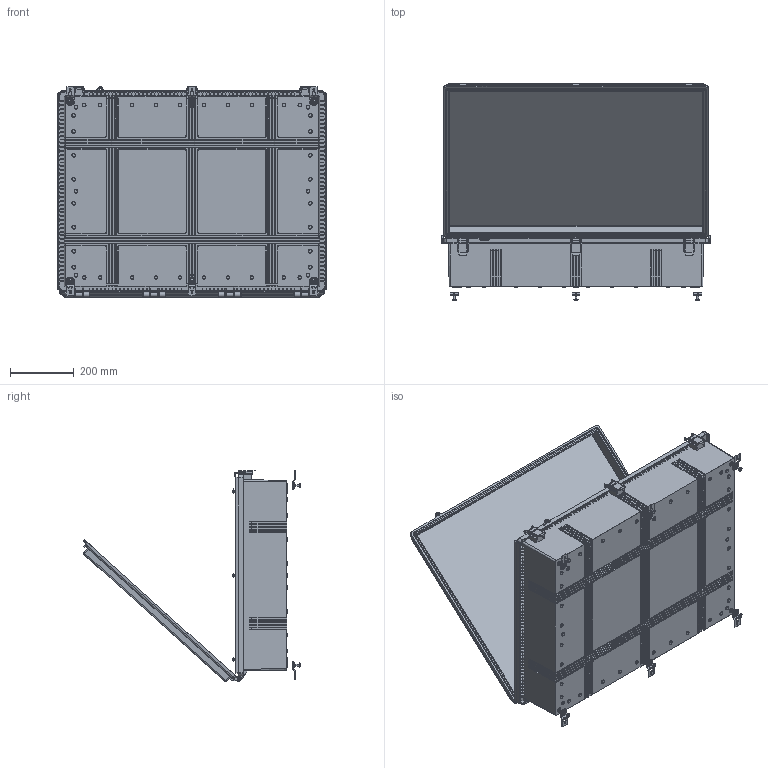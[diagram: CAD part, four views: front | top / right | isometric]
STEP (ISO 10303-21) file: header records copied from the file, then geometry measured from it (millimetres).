
FILE_DESCRIPTION (( 'STEP AP203' ), '1' );
FILE_NAME ('WQ-83.step', '2021-04-22T17:51:56', ( '' ), ( '' ), 'SwSTEP 2.0', 'SolidWorks 2016', '' );
FILE_SCHEMA (( 'CONFIG_CONTROL_DESIGN' ));
Length unit declared in the file: millimetre
Products named in the file (13): PIN^WQ-80L-01; WQ-83; WQ-83B_WQ-83B-02; WQ-83S_WQ-83S-02; WQ-80L-01_DEFAULT; LOOP^WQ-80L-01; WQ-92F_DEFAULT; BASE^WQ-80L-01; WQ-83C_WQ-83C-02; WQ-PIN-03; FRONT^WQ-80L-01_default; truss cross head screw_ks_SCREWS-053; WQ-93_DEFAUL
Assembly tree (35 placements, depth 4):
  WQ-83
    WQ-83S_WQ-83S-02
      WQ-83B_WQ-83B-02
      WQ-83C_WQ-83C-02
      WQ-80L-01_DEFAULT  x3
        BASE^WQ-80L-01
        FRONT^WQ-80L-01_default
        PIN^WQ-80L-01
        LOOP^WQ-80L-01
      WQ-PIN-03  x4
    WQ-93_DEFAUL
      WQ-92F_DEFAULT  x6
      truss cross head screw_ks_SCREWS-053  x14
Bounding box: 841.4 x 680.81 x 661.08 mm (x, y, z)
Volume: 7945647.6 mm3; surface area: 3588283 mm2
Topology: 56 solids, 56 shells, 4905 faces, 12575 edges, 7871 vertices
Faces by surface type: plane 2540, cylinder 1475, torus 438, bspline 184, cone 162, sphere 106
Full cylindrical faces by diameter (mm): 2.5 x3, 2.921 x3, 3 x21, 3.048 x6, 3.2 x6, 4 x8, 4.763 x3, 4.9 x6, 5 x21, 5.08 x12, 6 x14, 7.15 x4, 7.5 x31, 7.9 x6, 11.81 x42, 14 x14, 14.037 x6, 16.75 x10
Entity records: 118741 total; most frequent: CARTESIAN_POINT 28157, ORIENTED_EDGE 18920, DIRECTION 17528, EDGE_CURVE 9460, LINE 6296, VECTOR 6296, VERTEX_POINT 6191, AXIS2_PLACEMENT_3D 5616
